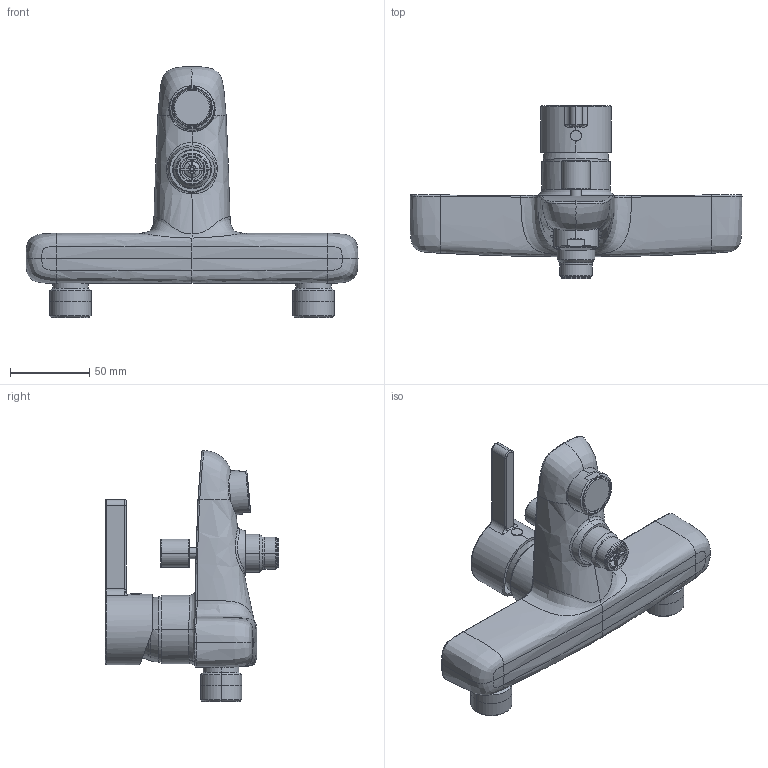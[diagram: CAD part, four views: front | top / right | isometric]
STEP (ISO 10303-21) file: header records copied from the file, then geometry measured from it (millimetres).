
FILE_DESCRIPTION((''),'2;1');
FILE_NAME('1FCR117ABK4-ARENA2_ASM_20_ASM','2021-04-09T',('AndreaMo'),('YOUR_COMPANY_NAME'),'CREO PARAMETRIC BY PTC INC, 2014350','CREO PARAMETRIC BY PTC INC, 2014350','');
FILE_SCHEMA(('CONFIG_CONTROL_DESIGN'));
Products named in the file (37): CORPO-VASCA-PARALLEL-INT153_9; AI0161_79; O-RING_15_1X1_6_184; AC53CC919ABD18SIL_3; K-35_HAZ_AF2_20_2; 35B_TALP_AF3_81_1; TEFLONGY_AF2_12_3; K-35_KARTARTO_AF0_21_2; K35_KAR_AF2_30_4; STIFT4X16_AF2_85_3; OGY_29X25_AF0_10_1; OGY_925X178_6_1; K35-ALTA-KEROX_ASM_24_ASM; 447_15; 1482_8; MANIGLIA-ARENA-2-APPLE-CO-339_7; ACGRANO5X4PC_91; 5539_2; GABBIETTA-AERATORE-28_4; GUARN-ROMP-NEOSTRAHL-M28X1_2; GABB-ROMP-NEOSTRAHL-M28X1_3; AC53CR682CDHNE_ASM_1_ASM; 1869_23; 856_18; 856-5_3; 856-2_4; SEEGER_9X0_7-UNI743-7_7; O-RING_4_1X1_6_184; MO53CR924AM_ASM_8_ASM; CORPO-VALVOLA-DW15_7; ASTA-VALVOLA-DW15_1; AC53CC586VA_ASM_12_ASM; O-RING_17_17X1_78_184; 856-3_13; 1690_9; 820-4_2; 1FCR117ABK4-ARENA2_ASM_20_ASM
Assembly tree (41 placements, depth 3):
  1FCR117ABK4-ARENA2_ASM_20_ASM
    CORPO-VASCA-PARALLEL-INT153_9
    AI0161_79  x2
    O-RING_15_1X1_6_184  x2
    AC53CC919ABD18SIL_3  x2
    K35-ALTA-KEROX_ASM_24_ASM
      K-35_HAZ_AF2_20_2
      35B_TALP_AF3_81_1
      TEFLONGY_AF2_12_3
      K-35_KARTARTO_AF0_21_2
      K35_KAR_AF2_30_4
      STIFT4X16_AF2_85_3
      OGY_29X25_AF0_10_1
      OGY_925X178_6_1  x2
    447_15
    1482_8
    MANIGLIA-ARENA-2-APPLE-CO-339_7
    ACGRANO5X4PC_91
    5539_2
    AC53CR682CDHNE_ASM_1_ASM
      GABBIETTA-AERATORE-28_4
      GUARN-ROMP-NEOSTRAHL-M28X1_2
      GABB-ROMP-NEOSTRAHL-M28X1_3
    1869_23
    MO53CR924AM_ASM_8_ASM
      856_18
      856-5_3  x2
      856-2_4
      SEEGER_9X0_7-UNI743-7_7
      O-RING_4_1X1_6_184
    AC53CC586VA_ASM_12_ASM
      CORPO-VALVOLA-DW15_7
      ASTA-VALVOLA-DW15_1
    O-RING_17_17X1_78_184
    856-3_13
    1690_9
    820-4_2
Bounding box: 208.88 x 109 x 157.93 mm (x, y, z)
Volume: 355686.6 mm3; surface area: 153945.9 mm2
Topology: 37 solids, 54 shells, 2357 faces, 6126 edges, 3900 vertices
Faces by surface type: cylinder 772, plane 720, bspline 376, torus 284, cone 185, sphere 18, revolution 2
Entity records: 123135 total; most frequent: CARTESIAN_POINT 49596, ORIENTED_EDGE 11340, DIRECTION 10634, PRESENTATION_STYLE_ASSIGNMENT 6150, STYLED_ITEM 5747, CURVE_STYLE 5701, EDGE_CURVE 5701, AXIS2_PLACEMENT_3D 4272
